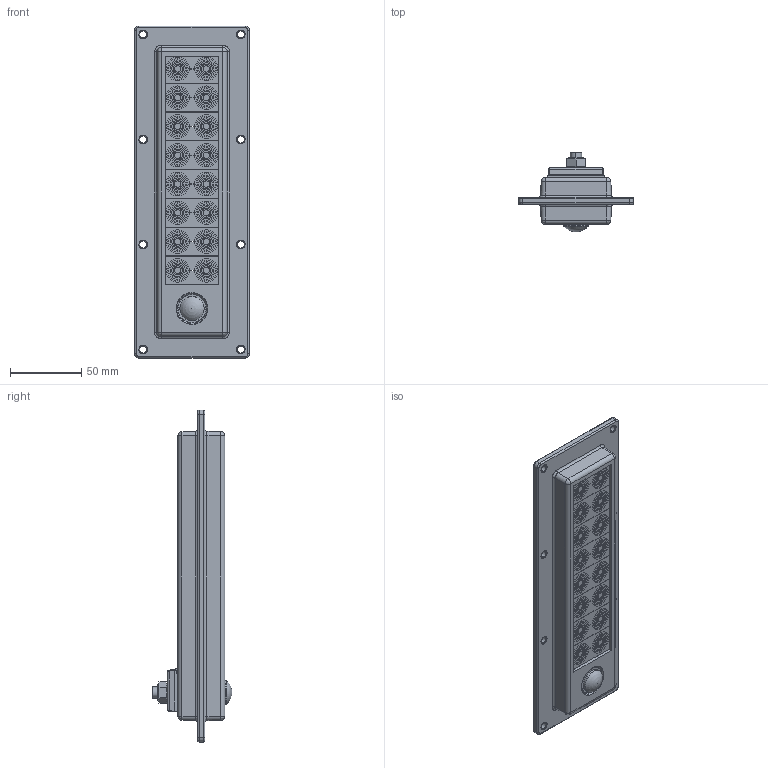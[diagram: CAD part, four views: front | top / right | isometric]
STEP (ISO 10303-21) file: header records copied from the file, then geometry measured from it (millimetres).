
FILE_DESCRIPTION (( 'STEP AP203' ), '1' );
FILE_NAME ('KML16-16.STEP', '2021-05-07T05:56:41', ( '' ), ( '' ), 'SwSTEP 2.0', 'SolidWorks 2016', '' );
FILE_SCHEMA (( 'CONFIG_CONTROL_DESIGN' ));
Length unit declared in the file: millimetre
Products named in the file (2): 錨璃13^16_asm_16; KML16-16
Assembly tree (1 placements, depth 2):
  KML16-16
    錨璃13^16_asm_16
Bounding box: 80.5 x 56 x 233 mm (x, y, z)
Volume: 353647.2 mm3; surface area: 105520.1 mm2
Topology: 1 solids, 2 shells, 1084 faces, 2562 edges, 1654 vertices
Faces by surface type: cylinder 542, plane 448, bspline 77, cone 12, torus 4, sphere 1
Entity records: 34451 total; most frequent: CARTESIAN_POINT 8845, DIRECTION 5516, ORIENTED_EDGE 5090, EDGE_CURVE 2545, AXIS2_PLACEMENT_3D 2141, VERTEX_POINT 1652, EDGE_LOOP 1353, LINE 1234
